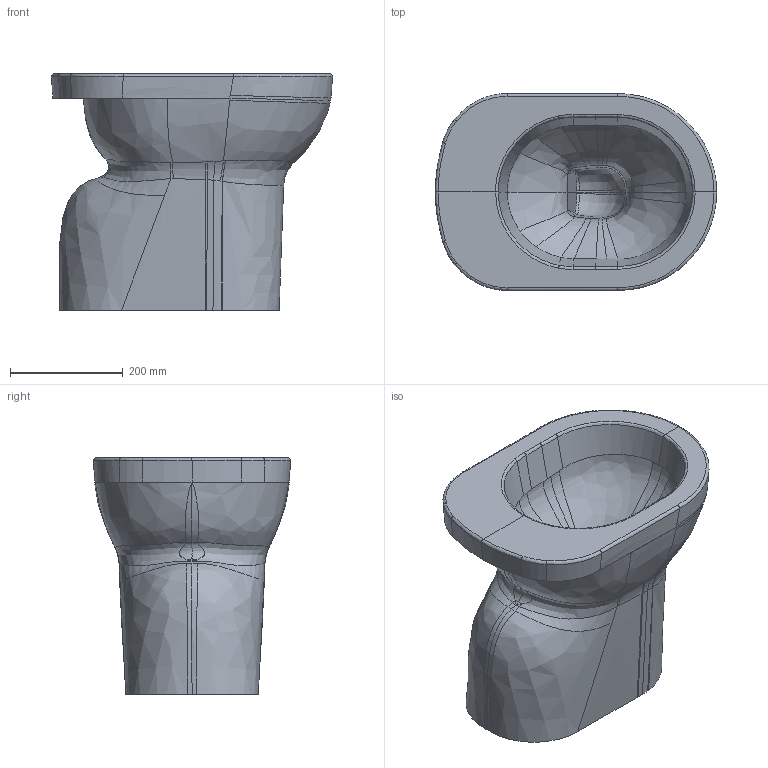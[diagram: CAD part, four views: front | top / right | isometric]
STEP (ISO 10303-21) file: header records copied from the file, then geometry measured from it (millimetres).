
FILE_DESCRIPTION(('CATIA V5 STEP Exchange'),'2;1');
FILE_NAME('C:\Users\167035\Downloads\3D ART 7205 Vaso terra Eden.stp','2024-05-23T14:17:08+00:00',('none'),('none'),'CATIA Version 5 Release 19 SP 5 (IN-10)','CATIA V5 STEP AP214','none');
FILE_SCHEMA(('AUTOMOTIVE_DESIGN { 1 0 10303 214 1 1 1 1 }'));
Length unit declared in the file: millimetre
Products named in the file (1): ART 7205 Vaso terra Eden
Bounding box: 499.68 x 349.92 x 420 mm (x, y, z)
Surface area: 908922.3 mm2 (no closed solid volume)
Topology: 0 solids, 2 shells, 150 faces, 367 edges, 215 vertices
Faces by surface type: bspline 138, plane 8, cylinder 4
Entity records: 28581 total; most frequent: CARTESIAN_POINT 26216, ORIENTED_EDGE 698, EDGE_CURVE 363, B_SPLINE_CURVE_WITH_KNOTS 337, VERTEX_POINT 215, ADVANCED_FACE 150, EDGE_LOOP 150, FACE_OUTER_BOUND 150
